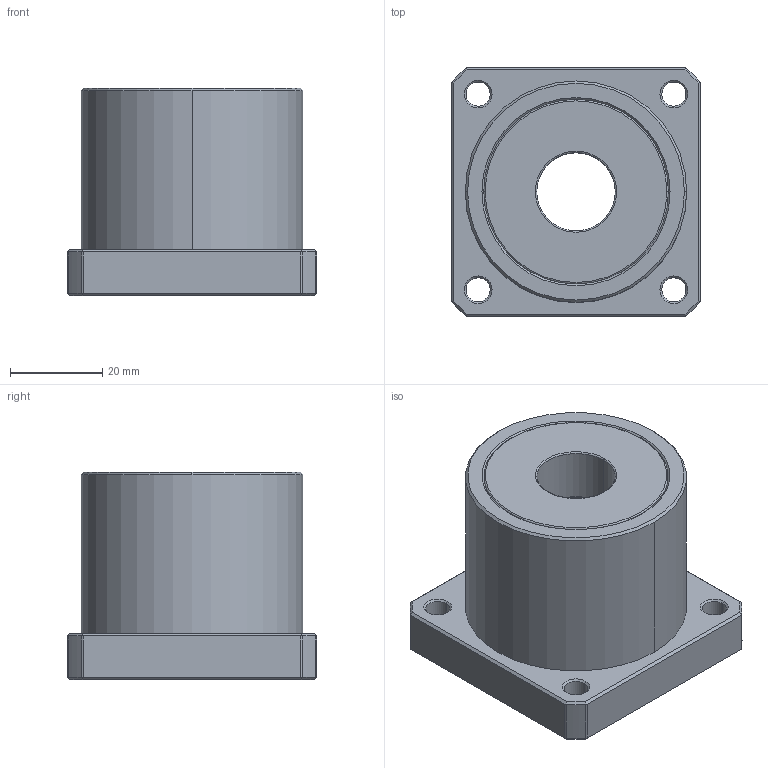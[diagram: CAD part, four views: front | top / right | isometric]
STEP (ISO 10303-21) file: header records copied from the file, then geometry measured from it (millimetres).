
FILE_DESCRIPTION (( 'STEP AP203' ), '1' );
FILE_NAME ('SBD17.STEP', '2009-05-27T08:05:48', ( '冠犁泅' ), ( '俺惯何' ), 'SwSTEP 2.0', 'SolidWorks 2007', '' );
FILE_SCHEMA (( 'CONFIG_CONTROL_DESIGN' ));
Length unit declared in the file: millimetre
Products named in the file (3): SBD17; SBD17_HOUSING_ル遽; 6203ZZ_ル遽
Assembly tree (3 placements, depth 2):
  SBD17
    SBD17_HOUSING_ル遽
    6203ZZ_ル遽  x2
Bounding box: 54 x 54 x 45 mm (x, y, z)
Volume: 65726 mm3; surface area: 25380 mm2
Topology: 3 solids, 3 shells, 119 faces, 278 edges, 172 vertices
Faces by surface type: cylinder 36, cone 34, plane 33, torus 16
Entity records: 3437 total; most frequent: CARTESIAN_POINT 613, DIRECTION 556, ORIENTED_EDGE 500, EDGE_CURVE 250, AXIS2_PLACEMENT_3D 227, VERTEX_POINT 156, EDGE_LOOP 124, CIRCLE 116
